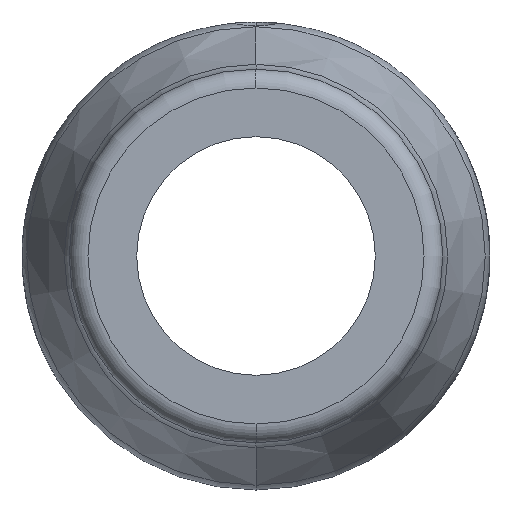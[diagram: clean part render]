
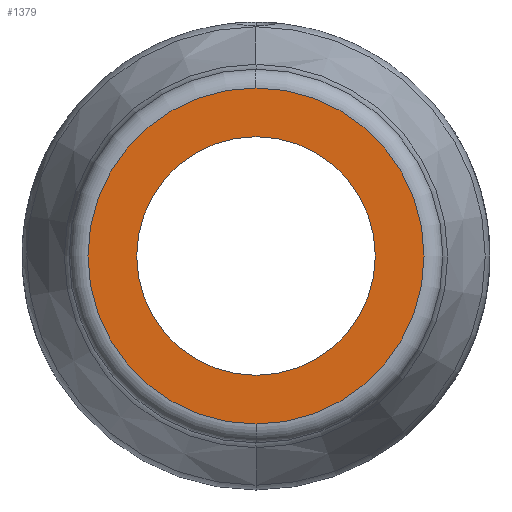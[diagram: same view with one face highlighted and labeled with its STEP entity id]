
A CAD part, left-side view. The second image highlights one B-rep face of the part: STEP entity #1379.
In plain terms, the highlighted planar face has unit normal (-1, 0, 0).
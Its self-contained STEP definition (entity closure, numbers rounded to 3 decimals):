
#33 = CIRCLE ( 'NONE', #295, 53.5 ) ;
#52 = AXIS2_PLACEMENT_3D ( 'NONE', #174, #1241, #320 ) ;
#86 = DIRECTION ( 'NONE',  ( 0., 0., -1. ) ) ;
#101 = DIRECTION ( 'NONE',  ( 1., 0., 0. ) ) ;
#130 = EDGE_CURVE ( 'NONE', #1102, #1250, #1025, .T. ) ;
#154 = AXIS2_PLACEMENT_3D ( 'NONE', #773, #1844, #965 ) ;
#174 = CARTESIAN_POINT ( 'NONE',  ( 0., 0., 0. ) ) ;
#181 = CARTESIAN_POINT ( 'NONE',  ( 0., 38., 0. ) ) ;
#218 = EDGE_CURVE ( 'NONE', #1606, #1472, #1403, .T. ) ;
#295 = AXIS2_PLACEMENT_3D ( 'NONE', #1704, #1944, #927 ) ;
#320 = DIRECTION ( 'NONE',  ( 0., 0., -1. ) ) ;
#433 = CARTESIAN_POINT ( 'NONE',  ( 0., 0., -53.5 ) ) ;
#572 = FACE_BOUND ( 'NONE', #972, .T. ) ;
#582 = PLANE ( 'NONE',  #1278 ) ;
#691 = ORIENTED_EDGE ( 'NONE', *, *, #218, .F. ) ;
#773 = CARTESIAN_POINT ( 'NONE',  ( 0., 0., 0. ) ) ;
#819 = CARTESIAN_POINT ( 'NONE',  ( 0., 0., 0. ) ) ;
#820 = CARTESIAN_POINT ( 'NONE',  ( 0., 0., -38. ) ) ;
#891 = ORIENTED_EDGE ( 'NONE', *, *, #130, .T. ) ;
#927 = DIRECTION ( 'NONE',  ( 0., 0., -1. ) ) ;
#965 = DIRECTION ( 'NONE',  ( 0., 0., 1. ) ) ;
#972 = EDGE_LOOP ( 'NONE', ( #691, #1251 ) ) ;
#978 = FACE_OUTER_BOUND ( 'NONE', #1010, .T. ) ;
#984 = DIRECTION ( 'NONE',  ( 0., 0., 1. ) ) ;
#990 = DIRECTION ( 'NONE',  ( -1., 0., 0. ) ) ;
#1010 = EDGE_LOOP ( 'NONE', ( #1948, #891 ) ) ;
#1025 = CIRCLE ( 'NONE', #52, 53.5 ) ;
#1102 = VERTEX_POINT ( 'NONE', #1387 ) ;
#1241 = DIRECTION ( 'NONE',  ( -1., 0., 0. ) ) ;
#1250 = VERTEX_POINT ( 'NONE', #433 ) ;
#1251 = ORIENTED_EDGE ( 'NONE', *, *, #1750, .F. ) ;
#1278 = AXIS2_PLACEMENT_3D ( 'NONE', #181, #101, #86 ) ;
#1379 = ADVANCED_FACE ( 'NONE', ( #978, #572 ), #582, .F. ) ;
#1387 = CARTESIAN_POINT ( 'NONE',  ( 0., 0., 53.5 ) ) ;
#1403 = CIRCLE ( 'NONE', #154, 38. ) ;
#1432 = CARTESIAN_POINT ( 'NONE',  ( 0., 0., 38. ) ) ;
#1472 = VERTEX_POINT ( 'NONE', #820 ) ;
#1526 = AXIS2_PLACEMENT_3D ( 'NONE', #819, #990, #984 ) ;
#1606 = VERTEX_POINT ( 'NONE', #1432 ) ;
#1704 = CARTESIAN_POINT ( 'NONE',  ( 0., 0., 0. ) ) ;
#1750 = EDGE_CURVE ( 'NONE', #1472, #1606, #1780, .T. ) ;
#1780 = CIRCLE ( 'NONE', #1526, 38. ) ;
#1844 = DIRECTION ( 'NONE',  ( -1., 0., 0. ) ) ;
#1890 = EDGE_CURVE ( 'NONE', #1250, #1102, #33, .T. ) ;
#1944 = DIRECTION ( 'NONE',  ( -1., 0., 0. ) ) ;
#1948 = ORIENTED_EDGE ( 'NONE', *, *, #1890, .T. ) ;
